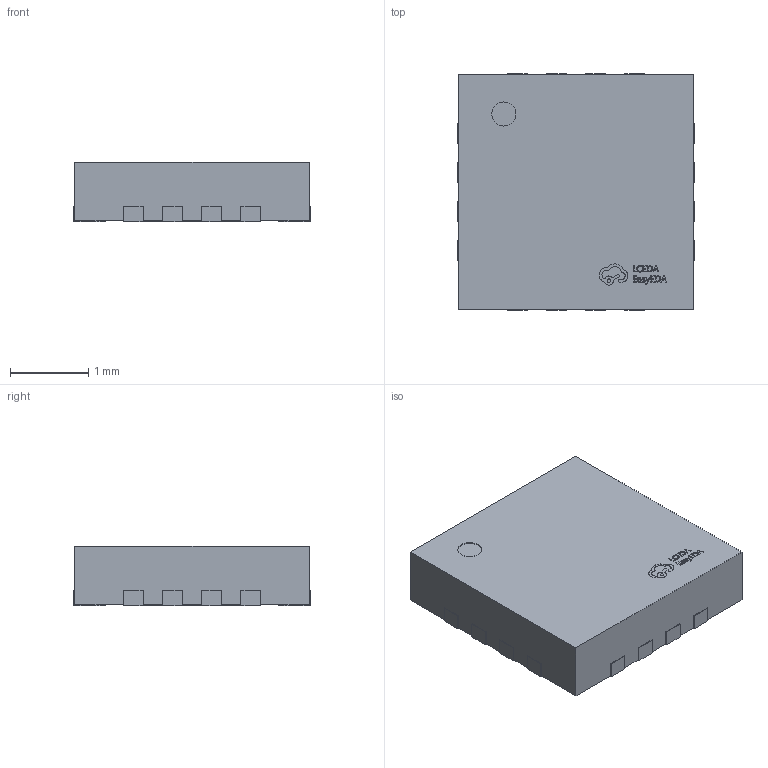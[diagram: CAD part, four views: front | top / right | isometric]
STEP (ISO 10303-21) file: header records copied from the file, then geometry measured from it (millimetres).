
FILE_DESCRIPTION (( 'STEP AP214' ), '1' );
FILE_NAME ('QFN-16_L3.0-W3.0-P0.50-EP1.7.STEP', '2026-04-08T08:43:02', ( '' ), ( '' ), 'SwSTEP 2.0', 'SolidWorks 2021', '' );
FILE_SCHEMA (( 'AUTOMOTIVE_DESIGN' ));
Length unit declared in the file: millimetre
Products named in the file (1): QFN-16_L3.0-W3.0-P0.50-EP1.7
Bounding box: 3.02 x 3.02 x 0.76 mm (x, y, z)
Volume: 6.8 mm3; surface area: 27.4 mm2
Topology: 1 solids, 1 shells, 339 faces, 948 edges, 632 vertices
Faces by surface type: plane 219, bspline 98, cylinder 22
Entity records: 15081 total; most frequent: CARTESIAN_POINT 3226, ORIENTED_EDGE 1896, DIRECTION 1276, EDGE_CURVE 948, VECTOR 704, LINE 704, VERTEX_POINT 632, EDGE_LOOP 360
